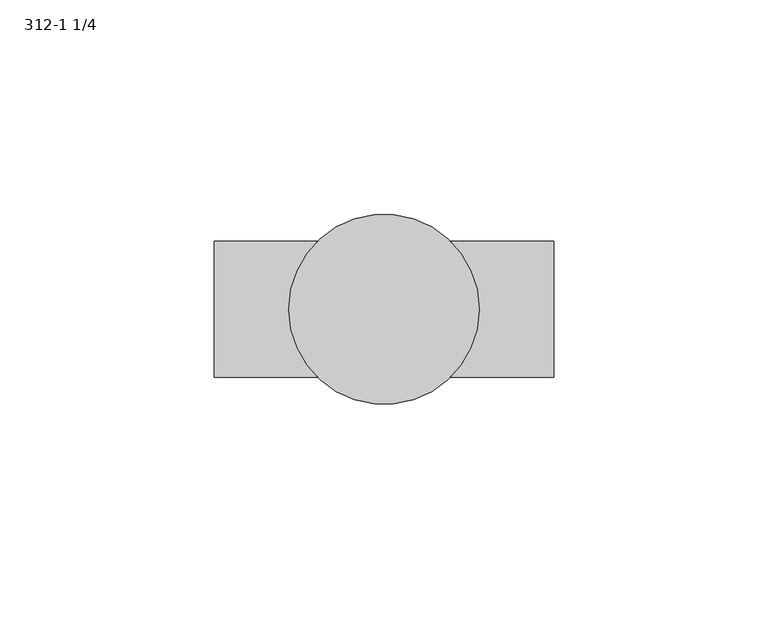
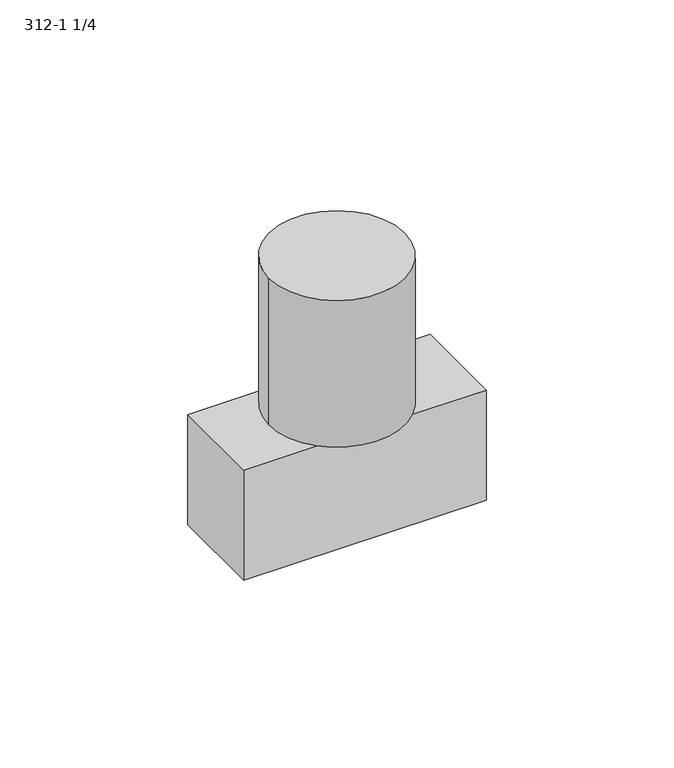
"""IFC4 building model written with IfcOpenShell, lengths in millimetres: proxy geometry, Duct_Adapter-Walkercell-Wiremold-Conduit : 312-1 1/4."""

from ifc_helpers import new_model, si_unit, frame, origin, place, context, project, spatial, circle_curve, source, transform, mapped, element, save
from ifc_brep_helpers import plane_surface, cylinder_surface, advanced_brep


def proxy_312_1_1_4_2c9563e2(model_context):
    return source(origin(), model_context, "Body", "AdvancedBrep", [
        advanced_brep(
        [(-22.225, 0.0, 88.9), (22.225, 0.0, 88.9), (-15.5542599, 15.875, 38.1), (15.5542599, 15.875, 38.1), (15.5542599, -15.875, 38.1), (-15.5542599, -15.875, 38.1), (-22.225, 0.0, 38.1), (22.225, 0.0, 38.1), (-39.6875, 15.875, 38.1), (-39.6875, -15.875, 38.1), (39.6875, -15.875, 38.1), (39.6875, 15.875, 38.1), (39.6875, 15.875, 0.0), (39.6875, -15.875, 0.0), (-39.6875, -15.875, 0.0), (-39.6875, 15.875, 0.0)],
        [
            (0, 1, circle_curve(frame((0.0, 0.0, 88.9), z_axis=(0.0, 0.0, 1.0), x_axis=(1.0, 0.0, 0.0)), 22.225)),
            (1, 0, circle_curve(frame((0.0, 0.0, 88.9), z_axis=(0.0, 0.0, 1.0), x_axis=(1.0, 0.0, 0.0)), 22.225)),
            (2, 3, circle_curve(frame((0.0, 0.0, 38.1), z_axis=(0.0, 0.0, -1.0), x_axis=(1.0, 0.0, 0.0)), 22.225)),
            (3, 2),
            (4, 5, circle_curve(frame((0.0, 0.0, 38.1), z_axis=(0.0, 0.0, -1.0), x_axis=(1.0, 0.0, 0.0)), 22.225)),
            (5, 4),
            (0, 6),
            (6, 5, circle_curve(frame((0.0, 0.0, 38.1), z_axis=(0.0, 0.0, 1.0), x_axis=(1.0, 0.0, 0.0)), 22.225)),
            (4, 7, circle_curve(frame((0.0, 0.0, 38.1), z_axis=(0.0, 0.0, 1.0), x_axis=(1.0, 0.0, 0.0)), 22.225)),
            (7, 1),
            (7, 3, circle_curve(frame((0.0, 0.0, 38.1), z_axis=(0.0, 0.0, 1.0), x_axis=(1.0, 0.0, 0.0)), 22.225)),
            (2, 6, circle_curve(frame((0.0, 0.0, 38.1), z_axis=(0.0, 0.0, 1.0), x_axis=(1.0, 0.0, 0.0)), 22.225)),
            (8, 9),
            (9, 5),
            (2, 8),
            (10, 11),
            (11, 3),
            (4, 10),
            (12, 13),
            (13, 14),
            (14, 15),
            (15, 12),
            (15, 8),
            (11, 12),
            (14, 9),
            (13, 10),
        ],
        [
            plane_surface(frame((22.225, 0.0, 88.9), z_axis=(0.0, 0.0, 1.0), x_axis=(0.0, 1.0, 0.0))),
            plane_surface(frame((22.225, 0.0, 38.1), z_axis=(0.0, 0.0, -1.0), x_axis=(0.0, -1.0, 0.0))),
            cylinder_surface(frame((0.0, 0.0, 38.1), z_axis=(0.0, 0.0, 1.0), x_axis=(1.0, 0.0, 0.0)), 22.225),
            plane_surface(frame((-39.6875, 15.875, 38.1), z_axis=(0.0, 0.0, 1.0), x_axis=(-1.0, 0.0, 0.0))),
            plane_surface(frame((-39.6875, 15.875, 0.0), z_axis=(0.0, 0.0, -1.0), x_axis=(1.0, 0.0, 0.0))),
            plane_surface(frame((39.6875, 15.875, 38.1), z_axis=(0.0, 1.0, 0.0), x_axis=(0.0, 0.0, -1.0))),
            plane_surface(frame((-39.6875, 15.875, 38.1), z_axis=(-1.0, 0.0, 0.0), x_axis=(0.0, 0.0, -1.0))),
            plane_surface(frame((-39.6875, -15.875, 38.1), z_axis=(0.0, -1.0, 0.0), x_axis=(0.0, 0.0, -1.0))),
            plane_surface(frame((39.6875, -15.875, 38.1), z_axis=(1.0, 0.0, 0.0), x_axis=(0.0, 0.0, -1.0))),
        ],
        [
            (0, [[1, 2]]),
            (1, [[3, 4]]),
            (1, [[5, 6]]),
            (2, [[-1, 7, 8, -5, 9, 10]]),
            (2, [[-2, -10, 11, -3, 12, -7]]),
            (3, [[13, 14, -8, -12, 15]]),
            (3, [[16, 17, -11, -9, 18]]),
            (4, [[19, 20, 21, 22]]),
            (5, [[-22, 23, -15, -4, -17, 24]]),
            (6, [[-13, -23, -21, 25]]),
            (7, [[-20, 26, -18, -6, -14, -25]]),
            (8, [[-16, -26, -19, -24]]),
        ],
    ),
    ])


if __name__ == "__main__":
    model = new_model("IFC4")
    model_context = context("Model", 3, world=origin())
    ifc_project = project(units=[si_unit("LENGTHUNIT", "METRE", prefix="MILLI")], contexts=[model_context])
    site = spatial("IfcSite", under=ifc_project)
    building = spatial("IfcBuilding", under=site)
    placement = place(None, origin())
    proxy_312_1_1_4_shape = proxy_312_1_1_4_2c9563e2(model_context)
    element("IfcBuildingElementProxy", 1, Name="Duct_Adapter-Walkercell-Wiremold-Conduit : 312-1 1/4", ObjectType="Duct_Adapter-Walkercell-Wiremold-Conduit : 312-1 1/4", at=placement, inside=building, context=model_context, shape_type="MappedRepresentation", body=[
        mapped(proxy_312_1_1_4_shape, transform((0.0, 0.0, 0.0), x_axis=(1.0, 0.0, 0.0), y_axis=(0.0, 1.0, 0.0), z_axis=(0.0, 0.0, 1.0))),
    ])
    save(model, "model.ifc")
